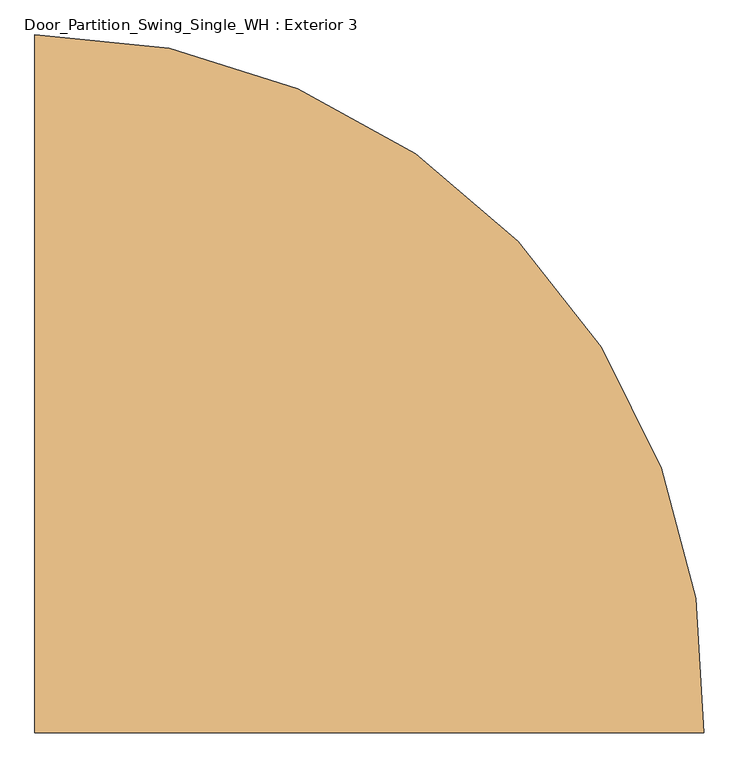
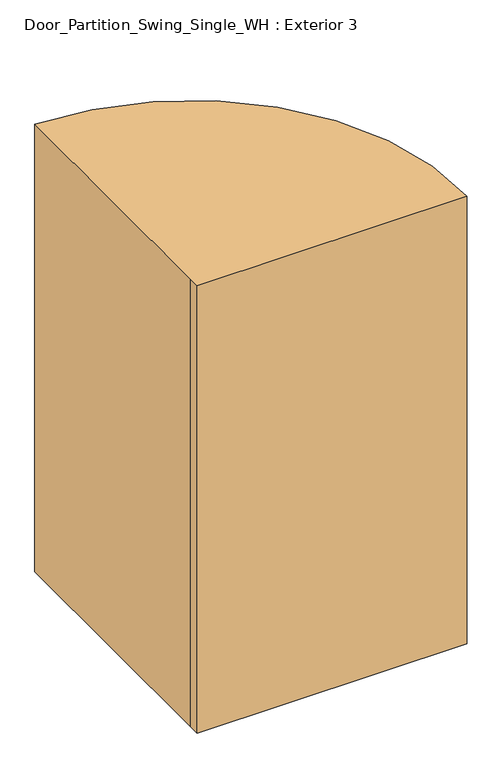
"""IFC4 building model written with IfcOpenShell, lengths in millimetres: door geometry, Door_Partition_Swing_Single_WH : Exterior 3."""

from ifc_helpers import new_model, si_unit, point, frame_2d, origin, origin_with_axes, place, context, project, spatial, polyline, circle_curve, trimmed, segment, composite_curve, outline, extrude, source, transform, mapped, element, save


def door_partition_swing_single_wh_exterior_3_02f52fd3(model_context):
    return source(origin(), model_context, "Body", "SweptSolid", [
        extrude(outline(composite_curve([segment(polyline([(-581.6346798, 51.6), (-581.6346798, 101.6), (-581.6346798, 1301.6)]), True, "CONTINUOUS"), segment(trimmed(circle_curve(frame_2d((-581.6346798, 101.6)), 1200.0), [point((-581.6346798, 1301.6))], [point((617.323201, 51.6))], False, "CARTESIAN"), True, "CONTINUOUS"), segment(polyline([(617.323201, 51.6), (-581.6346798, 51.6)]), True, "CONTINUOUS")], self_intersect=False)), origin_with_axes(), (0.0, 0.0, 1.0), 2100.0),
    ])


if __name__ == "__main__":
    model = new_model("IFC4")
    model_context = context("Model", 3, world=origin())
    ifc_project = project(units=[si_unit("LENGTHUNIT", "METRE", prefix="MILLI")], contexts=[model_context])
    site = spatial("IfcSite", under=ifc_project)
    building = spatial("IfcBuilding", under=site)
    placement = place(None, origin())
    door_partition_swing_single_wh_exterior_3_shape = door_partition_swing_single_wh_exterior_3_02f52fd3(model_context)
    element("IfcDoor", 1, ObjectType="Door_Partition_Swing_Single_WH : Exterior 3", at=placement, inside=building, context=model_context, shape_type="MappedRepresentation", body=[
        mapped(door_partition_swing_single_wh_exterior_3_shape, transform((0.0, 0.0, 0.0), x_axis=(1.0, 0.0, 0.0), y_axis=(0.0, 1.0, 0.0), z_axis=(0.0, 0.0, 1.0))),
    ])
    save(model, "model.ifc")
